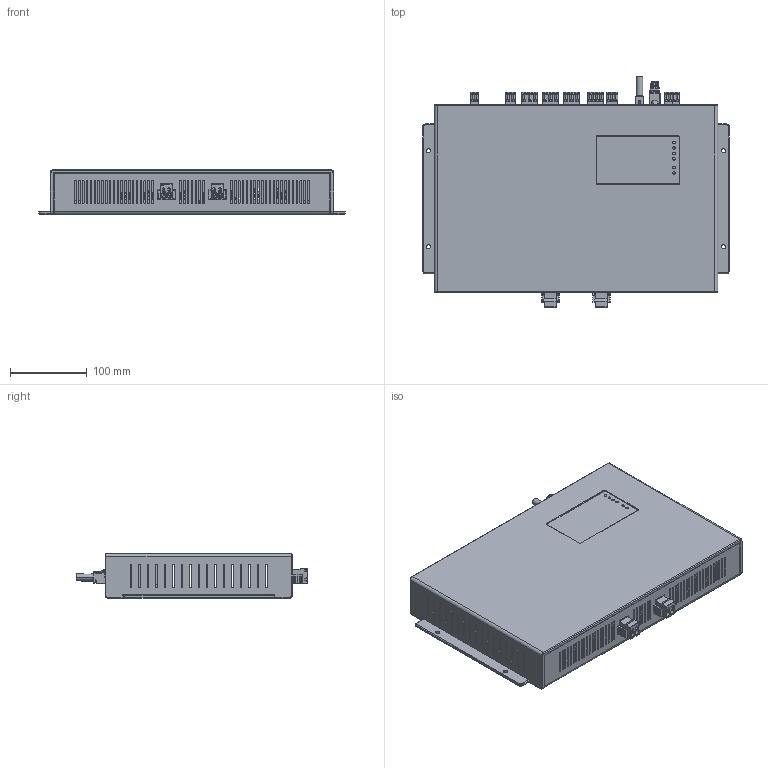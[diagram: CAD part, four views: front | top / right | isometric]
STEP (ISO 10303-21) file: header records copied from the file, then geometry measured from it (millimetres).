
FILE_DESCRIPTION (( 'STEP AP214' ), '1' );
FILE_NAME ('ISO-PV1686_A34647603AA_ESB.STEP', '2013-03-20T06:06:23', ( 'User' ), ( 'Bender' ), 'SwSTEP 2.0', 'SolidWorks 2013', '' );
FILE_SCHEMA (( 'AUTOMOTIVE_DESIGN' ));
Length unit declared in the file: millimetre
Products named in the file (16): Ku-Schraube_3x16; Micro-SD-Card; A370239; A370079; A370240; A370238; A370237; A370236; RJ45_plug; ISO-PV1686_A34647603AA_ESB; Folienträger; RJ45 Kabel_Stecker; Deckel_ISO_PV1685_00_Standard ohne LCD; Unterteil_ISO_PV1685_00; Sechskantmutter_M3 x2,3; DIN 6797-A3.2_DIN 6797-A3.2
Assembly tree (23 placements, depth 2):
  ISO-PV1686_A34647603AA_ESB
    RJ45_plug
    A370236  x3
    A370237
    A370238
    A370240  x3
    A370079  x2
    A370239
    Micro-SD-Card
    Ku-Schraube_3x16  x2
    DIN 6797-A3.2_DIN 6797-A3.2  x2
    Sechskantmutter_M3 x2,3  x2
    Unterteil_ISO_PV1685_00
    Deckel_ISO_PV1685_00_Standard ohne LCD
    RJ45 Kabel_Stecker
    Folienträger
Bounding box: 399 x 300.22 x 58 mm (x, y, z)
Volume: 990392.7 mm3; surface area: 569860.2 mm2
Topology: 22 solids, 24 shells, 5220 faces, 14034 edges, 9028 vertices
Faces by surface type: plane 2910, cylinder 1877, cone 210, bspline 205, sphere 10, torus 8
Entity records: 128676 total; most frequent: CARTESIAN_POINT 27243, ORIENTED_EDGE 18907, DIRECTION 18443, EDGE_CURVE 9481, VECTOR 6279, LINE 6279, VERTEX_POINT 6124, AXIS2_PLACEMENT_3D 6082
